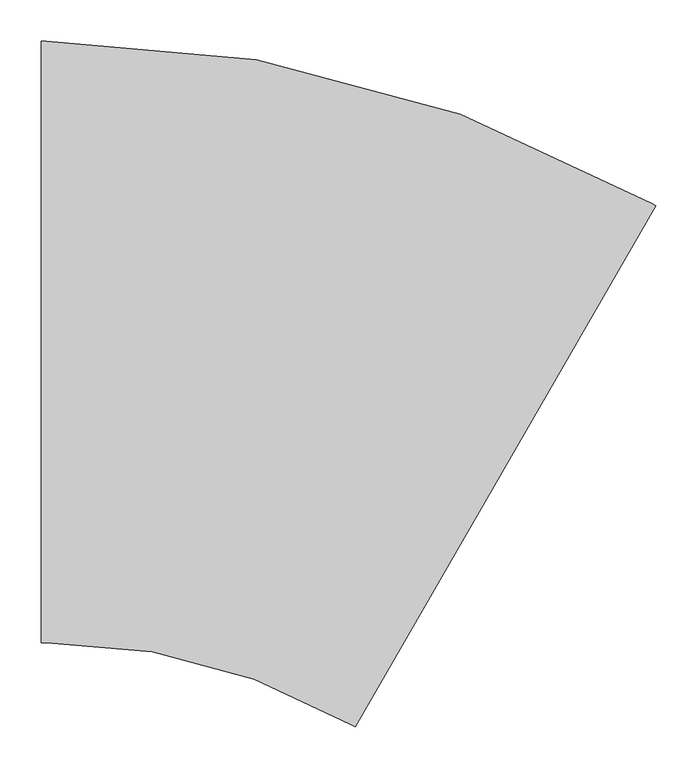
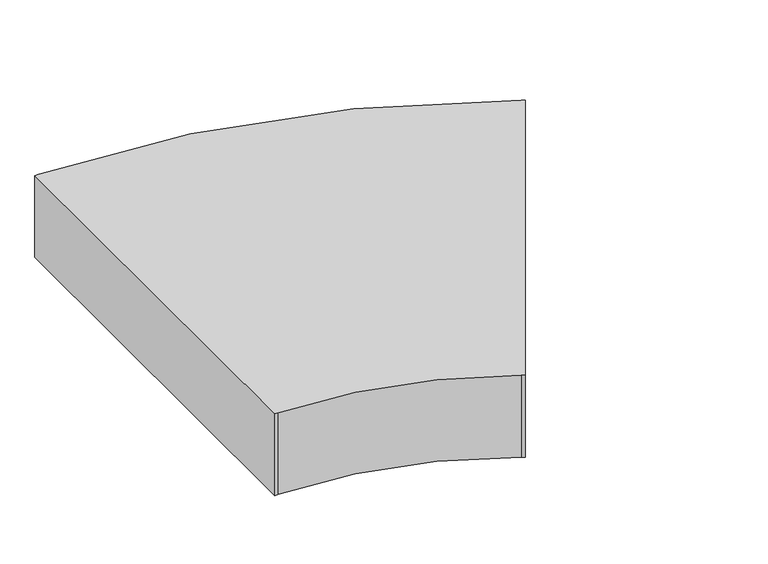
"""IFC4 building model written with IfcOpenShell, lengths in millimetres: furniture geometry, StanceHC-Flora-Narrow_Wedge_Connecting_Table : FATR30WC-P."""

from ifc_helpers import new_model, si_unit, point, frame, frame_2d, origin, place, context, project, spatial, polyline, circle_curve, trimmed, segment, composite_curve, outline, extrude, source, transform, mapped, element, save


def furniture_f57708da(model_context):
    return source(origin(), model_context, "Body", "SweptSolid", [
        extrude(outline(composite_curve([segment(trimmed(circle_curve(frame_2d((6.35, -1103.4264774)), 1468.5514774), [point((6.35, 365.125))], [point((740.6257387, 168.3764088))], False, "CARTESIAN"), True, "CONTINUOUS"), segment(polyline([(740.6257387, 168.3764088), (746.125, 165.2014088), (381.0, -467.2136423), (375.5007387, -464.0386423)]), True, "CONTINUOUS"), segment(trimmed(circle_curve(frame_2d((6.35, -1103.4264774)), 738.3014774), [point((375.5007387, -464.0386423))], [point((6.35, -365.125))], True, "CARTESIAN"), True, "CONTINUOUS"), segment(polyline([(6.35, -365.125), (0.0, -365.125), (0.0, 365.125), (6.35, 365.125)]), True, "CONTINUOUS")], self_intersect=False)), frame((0.0, 0.0, 203.9170953), z_axis=(0.0, 0.0, 1.0), x_axis=(1.0, 0.0, 0.0)), (0.0, 0.0, 1.0), 151.6829047),
    ])


if __name__ == "__main__":
    model = new_model("IFC4")
    model_context = context("Model", 3, world=origin())
    ifc_project = project(units=[si_unit("LENGTHUNIT", "METRE", prefix="MILLI")], contexts=[model_context])
    site = spatial("IfcSite", under=ifc_project)
    building = spatial("IfcBuilding", under=site)
    placement = place(None, origin())
    furniture_shape = furniture_f57708da(model_context)
    element("IfcFurniture", 1, ObjectType="StanceHC-Flora-Narrow_Wedge_Connecting_Table : FATR30WC-P", at=placement, inside=building, context=model_context, shape_type="MappedRepresentation", body=[
        mapped(furniture_shape, transform((0.0, 0.0, 0.0), x_axis=(1.0, 0.0, 0.0), y_axis=(0.0, 1.0, 0.0), z_axis=(0.0, 0.0, 1.0))),
    ])
    save(model, "model.ifc")
